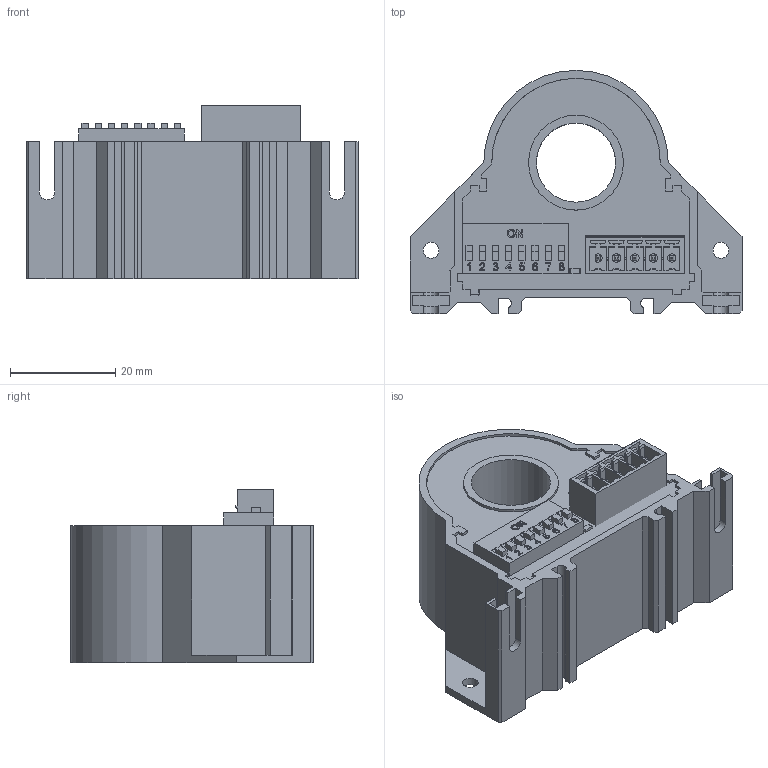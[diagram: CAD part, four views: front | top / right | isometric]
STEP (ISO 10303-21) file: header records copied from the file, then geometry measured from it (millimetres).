
FILE_DESCRIPTION(/* description */ (''),/* implementation_level */ '2;1');
FILE_NAME(/* name */ 'C:\Users\funes\Desktop\QI-50-V-485.stp',/* time_stamp */ '2017-09-06T11:15:27+02:00',/* author */ ('funes'),/* organization */ (''),/* preprocessor_version */ 'ST-DEVELOPER v16.1',/* originating_system */ 'Autodesk Inventor LT ',/* authorisation */ '');
FILE_SCHEMA (('AUTOMOTIVE_DESIGN { 1 0 10303 214 3 1 1 }'));
Length unit declared in the file: millimetre
Products named in the file (1): DM000010
Bounding box: 63 x 46.1 x 33 mm (x, y, z)
Volume: 24929.2 mm3; surface area: 23287.4 mm2
Topology: 5 solids, 5 shells, 725 faces, 1941 edges, 1264 vertices
Faces by surface type: plane 565, cylinder 79, bspline 76, cone 5
Full cylindrical faces by diameter (mm): 0.05 x11, 0.457 x1, 1.2 x5, 1.6 x4, 3 x2, 15 x1, 18 x1, 18.005 x1
Entity records: 25880 total; most frequent: CARTESIAN_POINT 7959, ORIENTED_EDGE 3768, DIRECTION 3216, EDGE_CURVE 1884, LINE 1548, VECTOR 1548, VERTEX_POINT 1245, AXIS2_PLACEMENT_3D 834
